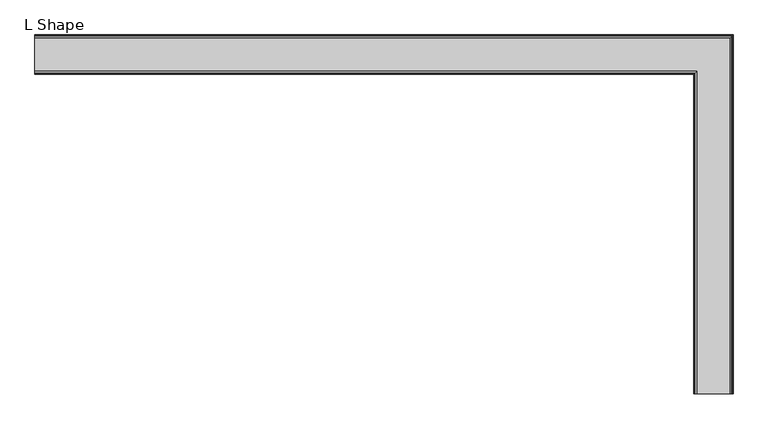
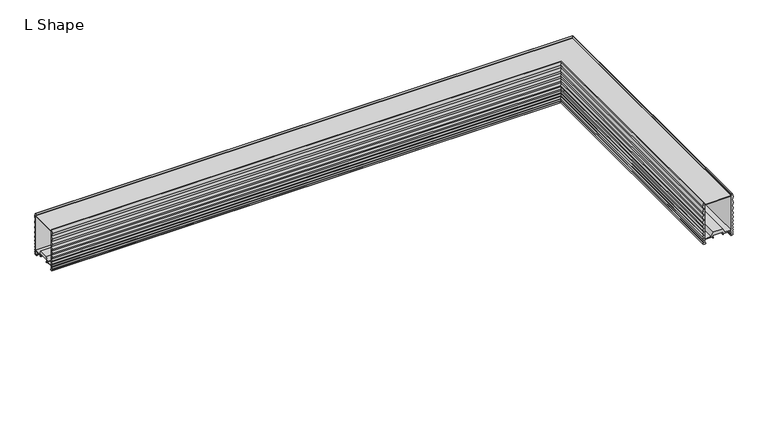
"""IFC4 building model written with IfcOpenShell, lengths in millimetres: light fixture geometry, Lighting-Ceiling-Betacalco-Bellows-L_Shape : L Shape."""

from ifc_helpers import new_model, si_unit, frame, origin, place, context, project, spatial, polyline, circle_curve, ellipse_curve, outline, extrude, source, transform, mapped, element, save
from ifc_brep_helpers import plane_surface, cylinder_surface, advanced_brep


def l_shape_3eba71ef(model_context):
    return source(origin(), model_context, "Body", "SolidModel", [
        advanced_brep(
        [(578.378, -609.6, 10.668), (596.0870711, -609.6, 10.668), (596.8570321, -609.6, 8.614822), (598.5447356, -609.6, 9.2406239), (596.91399, -609.6, 13.5891701), (597.5358437, -609.6, 14.8333325), (621.6641563, -609.6, 14.8333325), (622.28601, -609.6, 13.5891701), (620.6552644, -609.6, 9.2406239), (622.3429679, -609.6, 8.614822), (623.1129289, -609.6, 10.668), (640.822, -609.6, 10.668), (640.822, -609.6, 2.159), (638.2925845, -609.6, 2.159), (640.2378, -609.6, 0.0), (642.8887943, -609.6, 0.0), (644.7621621, -609.6, 2.0283861), (642.981, -609.6, 4.064), (644.759, -609.6, 6.604), (642.981, -609.6, 9.144), (644.759, -609.6, 12.192), (642.981, -609.6, 15.24), (644.759, -609.6, 18.796), (642.981, -609.6, 22.352), (644.759, -609.6, 26.162), (642.981, -609.6, 29.972), (644.7303587, -609.6, 34.4703509), (643.0082002, -609.6, 39.0460566), (644.7355055, -609.6, 44.1288728), (643.0034215, -609.6, 49.2119386), (644.7393965, -609.6, 54.802389), (642.9997837, -609.6, 60.3929656), (644.7424053, -609.6, 66.491104), (642.9964031, -609.6, 72.5911894), (644.7466792, -609.6, 79.7067168), (642.9931082, -609.6, 86.8195673), (644.7474913, -609.6, 94.186321), (642.9814932, -609.6, 101.6), (642.1877432, -609.6, 101.6), (640.02825, -609.6, 99.2470342), (640.02825, -609.6, 97.7961196), (640.822, -609.6, 97.7961196), (640.822, -609.6, 12.827), (625.0806146, -609.6, 12.827), (620.2222255, -609.6, 22.5473325), (598.9777745, -609.6, 22.5473325), (594.1193854, -609.6, 12.827), (578.378, -609.6, 12.827), (578.378, -609.6, 97.7961196), (579.17175, -609.6, 97.7961196), (579.17175, -609.6, 99.2470342), (577.0122568, -609.6, 101.6), (576.2185068, -609.6, 101.6), (574.4525087, -609.6, 94.186321), (576.2068918, -609.6, 86.8195673), (574.4533208, -609.6, 79.7067168), (576.2035969, -609.6, 72.5911894), (574.4575947, -609.6, 66.491104), (576.2002163, -609.6, 60.3929656), (574.4606035, -609.6, 54.802389), (576.1965785, -609.6, 49.2119386), (574.4644945, -609.6, 44.1288728), (576.1917998, -609.6, 39.0460566), (574.4696413, -609.6, 34.4703509), (576.219, -609.6, 29.972), (574.441, -609.6, 26.162), (576.219, -609.6, 22.352), (574.441, -609.6, 18.796), (576.219, -609.6, 15.24), (574.441, -609.6, 12.192), (576.219, -609.6, 9.144), (574.441, -609.6, 6.604), (576.219, -609.6, 4.064), (574.4378379, -609.6, 2.0283861), (576.3112057, -609.6, 0.0), (578.9622, -609.6, 0.0), (580.9074155, -609.6, 2.159), (578.378, -609.6, 2.159), (-609.6, -31.222, 10.668), (-609.6, -31.222, 2.159), (-609.6, -28.6925845, 2.159), (-609.6, -30.6378, 0.0), (-609.6, -33.2887943, 0.0), (-609.6, -35.1621621, 2.0283861), (-609.6, -33.381, 4.064), (-609.6, -35.159, 6.604), (-609.6, -33.381, 9.144), (-609.6, -35.159, 12.192), (-609.6, -33.381, 15.24), (-609.6, -35.159, 18.796), (-609.6, -33.381, 22.352), (-609.6, -35.159, 26.162), (-609.6, -33.381, 29.972), (-609.6, -35.1303587, 34.4703509), (-609.6, -33.4082002, 39.0460566), (-609.6, -35.1355055, 44.1288728), (-609.6, -33.4034215, 49.2119386), (-609.6, -35.1393965, 54.802389), (-609.6, -33.3997837, 60.3929656), (-609.6, -35.1424053, 66.491104), (-609.6, -33.3964031, 72.5911894), (-609.6, -35.1466792, 79.7067168), (-609.6, -33.3931082, 86.8195673), (-609.6, -35.1474913, 94.186321), (-609.6, -33.3814932, 101.6), (-609.6, -32.5877432, 101.6), (-609.6, -30.42825, 99.2470342), (-609.6, -30.42825, 97.7961196), (-609.6, -31.222, 97.7961196), (-609.6, -31.222, 12.827), (-609.6, -15.4806146, 12.827), (-609.6, -10.6222255, 22.5473325), (-609.6, 10.6222255, 22.5473325), (-609.6, 15.4806146, 12.827), (-609.6, 31.222, 12.827), (-609.6, 31.222, 97.7961196), (-609.6, 30.42825, 97.7961196), (-609.6, 30.42825, 99.2470342), (-609.6, 32.5877432, 101.6), (-609.6, 33.3814932, 101.6), (-609.6, 35.1474913, 94.186321), (-609.6, 33.3931082, 86.8195673), (-609.6, 35.1466792, 79.7067168), (-609.6, 33.3964031, 72.5911894), (-609.6, 35.1424053, 66.491104), (-609.6, 33.3997837, 60.3929656), (-609.6, 35.1393965, 54.802389), (-609.6, 33.4034215, 49.2119386), (-609.6, 35.1355055, 44.1288728), (-609.6, 33.4082002, 39.0460566), (-609.6, 35.1303587, 34.4703509), (-609.6, 33.381, 29.972), (-609.6, 35.159, 26.162), (-609.6, 33.381, 22.352), (-609.6, 35.159, 18.796), (-609.6, 33.381, 15.24), (-609.6, 35.159, 12.192), (-609.6, 33.381, 9.144), (-609.6, 35.159, 6.604), (-609.6, 33.381, 4.064), (-609.6, 35.1621621, 2.0283861), (-609.6, 33.2887943, 0.0), (-609.6, 30.6378, 0.0), (-609.6, 28.6925845, 2.159), (-609.6, 31.222, 2.159), (-609.6, 31.222, 10.668), (-609.6, 13.5129289, 10.668), (-609.6, 12.7429679, 8.614822), (-609.6, 11.0552644, 9.2406239), (-609.6, 12.68601, 13.5891701), (-609.6, 12.0641563, 14.8333325), (-609.6, -12.0641563, 14.8333325), (-609.6, -12.68601, 13.5891701), (-609.6, -11.0552644, 9.2406239), (-609.6, -12.7429679, 8.614822), (-609.6, -13.5129289, 10.668), (596.8570321, -12.7429679, 8.614822), (596.0870711, -13.5129289, 10.668), (598.5447356, -11.0552644, 9.2406239), (596.91399, -12.68601, 13.5891701), (597.5358437, -12.0641563, 14.8333325), (622.28601, 12.68601, 13.5891701), (621.6641563, 12.0641563, 14.8333325), (620.6552644, 11.0552644, 9.2406239), (622.3429679, 12.7429679, 8.614822), (623.1129289, 13.5129289, 10.668), (640.822, 31.222, 2.159), (640.822, 31.222, 10.668), (640.2378, 30.6378, 0.0), (638.2925845, 28.6925845, 2.159), (644.7621621, 35.1621621, 2.0283861), (642.8887943, 33.2887943, 0.0), (642.981, 33.381, 4.064), (644.759, 35.159, 6.604), (642.981, 33.381, 9.144), (644.759, 35.159, 12.192), (642.981, 33.381, 15.24), (644.759, 35.159, 18.796), (642.981, 33.381, 22.352), (644.759, 35.159, 26.162), (642.981, 33.381, 29.972), (644.7303587, 35.1303587, 34.4703509), (643.0082002, 33.4082002, 39.0460566), (644.7355055, 35.1355055, 44.1288728), (643.0034215, 33.4034215, 49.2119386), (644.7393965, 35.1393965, 54.802389), (642.9997837, 33.3997837, 60.3929656), (644.7424053, 35.1424053, 66.491104), (642.9964031, 33.3964031, 72.5911894), (644.7466792, 35.1466792, 79.7067168), (642.9931082, 33.3931082, 86.8195673), (644.7474913, 35.1474913, 94.186321), (642.9814932, 33.3814932, 101.6), (640.02825, 30.42825, 99.2470342), (642.1877432, 32.5877432, 101.6), (640.02825, 30.42825, 97.7961196), (640.822, 31.222, 12.827), (640.822, 31.222, 97.7961196), (620.2222255, 10.6222255, 22.5473325), (625.0806146, 15.4806146, 12.827), (594.1193854, -15.4806146, 12.827), (598.9777745, -10.6222255, 22.5473325), (578.378, -31.222, 97.7961196), (578.378, -31.222, 12.827), (579.17175, -30.42825, 99.2470342), (579.17175, -30.42825, 97.7961196), (577.0122568, -32.5877432, 101.6), (574.4525087, -35.1474913, 94.186321), (576.2185068, -33.3814932, 101.6), (576.2068918, -33.3931082, 86.8195673), (574.4533208, -35.1466792, 79.7067168), (576.2035969, -33.3964031, 72.5911894), (574.4575947, -35.1424053, 66.491104), (576.2002163, -33.3997837, 60.3929656), (574.4606035, -35.1393965, 54.802389), (576.1965785, -33.4034215, 49.2119386), (574.4644945, -35.1355055, 44.1288728), (576.1917998, -33.4082002, 39.0460566), (574.4696413, -35.1303587, 34.4703509), (576.219, -33.381, 29.972), (574.441, -35.159, 26.162), (576.219, -33.381, 22.352), (574.441, -35.159, 18.796), (576.219, -33.381, 15.24), (574.441, -35.159, 12.192), (576.219, -33.381, 9.144), (574.441, -35.159, 6.604), (576.219, -33.381, 4.064), (574.4378379, -35.1621621, 2.0283861), (576.3112057, -33.2887943, 0.0), (580.9074155, -28.6925845, 2.159), (578.9622, -30.6378, 0.0), (578.378, -31.222, 10.668), (578.378, -31.222, 2.159)],
        [
            (0, 1),
            (1, 2),
            (2, 3, circle_curve(frame((597.6997277, -609.6, 8.9308408), z_axis=(0.0, -1.0, 0.0), x_axis=(0.34325550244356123, 0.0, -0.9392420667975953)), 0.9000021)),
            (3, 4),
            (4, 5),
            (5, 6),
            (6, 7),
            (7, 8),
            (8, 9, circle_curve(frame((621.5002723, -609.6, 8.9308408), z_axis=(0.0, -1.0, 0.0), x_axis=(-0.34325550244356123, 0.0, -0.9392420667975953)), 0.9000021)),
            (9, 10),
            (10, 11),
            (11, 12),
            (12, 13),
            (13, 14, circle_curve(frame((640.2378, -609.6, 1.9558), z_axis=(0.0, -1.0, 0.0), x_axis=(0.0, 0.0, -1.0)), 1.9558)),
            (14, 15),
            (15, 16),
            (16, 17),
            (17, 18),
            (18, 19),
            (19, 20),
            (20, 21),
            (21, 22),
            (22, 23),
            (23, 24),
            (24, 25),
            (25, 26),
            (26, 27),
            (27, 28),
            (28, 29),
            (29, 30),
            (30, 31),
            (31, 32),
            (32, 33),
            (33, 34),
            (34, 35),
            (35, 36),
            (36, 37),
            (37, 38),
            (38, 39),
            (39, 40),
            (40, 41),
            (41, 42),
            (42, 43),
            (43, 44),
            (44, 45),
            (45, 46),
            (46, 47),
            (47, 48),
            (48, 49),
            (49, 50),
            (50, 51),
            (51, 52),
            (52, 53),
            (53, 54),
            (54, 55),
            (55, 56),
            (56, 57),
            (57, 58),
            (58, 59),
            (59, 60),
            (60, 61),
            (61, 62),
            (62, 63),
            (63, 64),
            (64, 65),
            (65, 66),
            (66, 67),
            (67, 68),
            (68, 69),
            (69, 70),
            (70, 71),
            (71, 72),
            (72, 73),
            (73, 74),
            (74, 75),
            (75, 76, circle_curve(frame((578.9622, -609.6, 1.9558), z_axis=(0.0, -1.0, 0.0), x_axis=(0.0, 0.0, -1.0)), 1.9558)),
            (76, 77),
            (77, 0),
            (78, 79),
            (79, 80),
            (80, 81, circle_curve(frame((-609.6, -30.6378, 1.9558), z_axis=(-1.0, 0.0, 0.0), x_axis=(0.0, 0.0, -1.0)), 1.9558)),
            (81, 82),
            (82, 83),
            (83, 84),
            (84, 85),
            (85, 86),
            (86, 87),
            (87, 88),
            (88, 89),
            (89, 90),
            (90, 91),
            (91, 92),
            (92, 93),
            (93, 94),
            (94, 95),
            (95, 96),
            (96, 97),
            (97, 98),
            (98, 99),
            (99, 100),
            (100, 101),
            (101, 102),
            (102, 103),
            (103, 104),
            (104, 105),
            (105, 106),
            (106, 107),
            (107, 108),
            (108, 109),
            (109, 110),
            (110, 111),
            (111, 112),
            (112, 113),
            (113, 114),
            (114, 115),
            (115, 116),
            (116, 117),
            (117, 118),
            (118, 119),
            (119, 120),
            (120, 121),
            (121, 122),
            (122, 123),
            (123, 124),
            (124, 125),
            (125, 126),
            (126, 127),
            (127, 128),
            (128, 129),
            (129, 130),
            (130, 131),
            (131, 132),
            (132, 133),
            (133, 134),
            (134, 135),
            (135, 136),
            (136, 137),
            (137, 138),
            (138, 139),
            (139, 140),
            (140, 141),
            (141, 142),
            (142, 143, circle_curve(frame((-609.6, 30.6378, 1.9558), z_axis=(-1.0, 0.0, 0.0), x_axis=(0.0, 0.0, -1.0)), 1.9558)),
            (143, 144),
            (144, 145),
            (145, 146),
            (146, 147),
            (147, 148, circle_curve(frame((-609.6, 11.9002723, 8.9308408), z_axis=(-1.0, 0.0, 0.0), x_axis=(0.0, -0.34325550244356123, -0.9392420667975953)), 0.9000021)),
            (148, 149),
            (149, 150),
            (150, 151),
            (151, 152),
            (152, 153),
            (153, 154, circle_curve(frame((-609.6, -11.9002723, 8.9308408), z_axis=(-1.0, 0.0, 0.0), x_axis=(0.0, 0.34325550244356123, -0.9392420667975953)), 0.9000021)),
            (154, 155),
            (155, 78),
            (156, 157),
            (157, 155),
            (154, 156),
            (158, 156, ellipse_curve(frame((597.6997277, -11.9002723, 8.9308408), z_axis=(-0.7071067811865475, 0.7071067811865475, 0.0), x_axis=(0.7071067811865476, 0.7071067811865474, 0.0)), 1.2727952, 0.9000021)),
            (153, 158),
            (159, 158),
            (152, 159),
            (160, 159),
            (151, 160),
            (161, 162),
            (162, 150),
            (149, 161),
            (163, 161),
            (148, 163),
            (164, 163, ellipse_curve(frame((621.5002723, 11.9002723, 8.9308408), z_axis=(-0.7071067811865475, 0.7071067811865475, 0.0), x_axis=(0.7071067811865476, 0.7071067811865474, 0.0)), 1.2727952, 0.9000021)),
            (147, 164),
            (165, 164),
            (146, 165),
            (166, 167),
            (167, 145),
            (144, 166),
            (168, 169, ellipse_curve(frame((640.2378, 30.6378, 1.9558), z_axis=(-0.7071067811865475, 0.7071067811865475, 0.0), x_axis=(0.7071067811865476, 0.7071067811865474, 0.0)), 2.7659189, 1.9558)),
            (169, 143),
            (142, 168),
            (170, 171),
            (171, 141),
            (140, 170),
            (172, 170),
            (139, 172),
            (173, 172),
            (138, 173),
            (174, 173),
            (137, 174),
            (175, 174),
            (136, 175),
            (176, 175),
            (135, 176),
            (177, 176),
            (134, 177),
            (178, 177),
            (133, 178),
            (179, 178),
            (132, 179),
            (180, 179),
            (131, 180),
            (181, 180),
            (130, 181),
            (182, 181),
            (129, 182),
            (183, 182),
            (128, 183),
            (184, 183),
            (127, 184),
            (185, 184),
            (126, 185),
            (186, 185),
            (125, 186),
            (187, 186),
            (124, 187),
            (188, 187),
            (123, 188),
            (189, 188),
            (122, 189),
            (190, 189),
            (121, 190),
            (191, 190),
            (120, 191),
            (192, 191),
            (119, 192),
            (193, 194),
            (194, 118),
            (117, 193),
            (195, 193),
            (116, 195),
            (196, 197),
            (197, 115),
            (114, 196),
            (198, 199),
            (199, 113),
            (112, 198),
            (200, 201),
            (201, 111),
            (110, 200),
            (202, 203),
            (203, 109),
            (108, 202),
            (204, 205),
            (205, 107),
            (106, 204),
            (206, 204),
            (105, 206),
            (207, 208),
            (208, 104),
            (103, 207),
            (209, 207),
            (102, 209),
            (210, 209),
            (101, 210),
            (211, 210),
            (100, 211),
            (212, 211),
            (99, 212),
            (213, 212),
            (98, 213),
            (214, 213),
            (97, 214),
            (215, 214),
            (96, 215),
            (216, 215),
            (95, 216),
            (217, 216),
            (94, 217),
            (218, 217),
            (93, 218),
            (219, 218),
            (92, 219),
            (220, 219),
            (91, 220),
            (221, 220),
            (90, 221),
            (222, 221),
            (89, 222),
            (223, 222),
            (88, 223),
            (224, 223),
            (87, 224),
            (225, 224),
            (86, 225),
            (226, 225),
            (85, 226),
            (227, 226),
            (84, 227),
            (228, 227),
            (83, 228),
            (229, 228),
            (82, 229),
            (230, 231, ellipse_curve(frame((578.9622, -30.6378, 1.9558), z_axis=(-0.7071067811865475, 0.7071067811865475, 0.0), x_axis=(0.7071067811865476, 0.7071067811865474, 0.0)), 2.7659189, 1.9558)),
            (231, 81),
            (80, 230),
            (232, 233),
            (233, 79),
            (78, 232),
            (0, 232),
            (157, 1),
            (156, 2),
            (158, 3),
            (159, 4),
            (160, 5),
            (162, 6),
            (161, 7),
            (163, 8),
            (164, 9),
            (165, 10),
            (167, 11),
            (166, 12),
            (169, 13),
            (168, 14),
            (171, 15),
            (170, 16),
            (172, 17),
            (173, 18),
            (174, 19),
            (175, 20),
            (176, 21),
            (177, 22),
            (178, 23),
            (179, 24),
            (180, 25),
            (181, 26),
            (182, 27),
            (183, 28),
            (184, 29),
            (185, 30),
            (186, 31),
            (187, 32),
            (188, 33),
            (189, 34),
            (190, 35),
            (191, 36),
            (192, 37),
            (194, 38),
            (193, 39),
            (195, 40),
            (197, 41),
            (196, 42),
            (199, 43),
            (198, 44),
            (201, 45),
            (200, 46),
            (203, 47),
            (202, 48),
            (205, 49),
            (204, 50),
            (206, 51),
            (208, 52),
            (207, 53),
            (209, 54),
            (210, 55),
            (211, 56),
            (212, 57),
            (213, 58),
            (214, 59),
            (215, 60),
            (216, 61),
            (217, 62),
            (218, 63),
            (219, 64),
            (220, 65),
            (221, 66),
            (222, 67),
            (223, 68),
            (224, 69),
            (225, 70),
            (226, 71),
            (227, 72),
            (228, 73),
            (229, 74),
            (231, 75),
            (230, 76),
            (233, 77),
        ],
        [
            plane_surface(frame((609.6, -609.6, 0.0), z_axis=(0.0, -1.0, 0.0), x_axis=(0.0, 0.0, 1.0))),
            plane_surface(frame((-609.6, 0.0, 0.0), z_axis=(-1.0, 0.0, 0.0), x_axis=(0.0, 0.0, 1.0))),
            plane_surface(frame((596.0870711, -13.5129289, 10.668), z_axis=(0.0, -0.9363262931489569, -0.3511311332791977), x_axis=(-1.0, 0.0, 0.0))),
            cylinder_surface(frame((609.6, -11.9002723, 8.9308408), z_axis=(1.0, 0.0, 0.0), x_axis=(0.0, 0.34325550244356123, -0.9392420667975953)), 0.9000021),
            plane_surface(frame((598.5447356, -11.0552644, 9.2406239), z_axis=(0.0, 0.9363262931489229, 0.35113113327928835), x_axis=(-1.0, 0.0, 0.0))),
            plane_surface(frame((596.91399, -12.68601, 13.5891701), z_axis=(0.0, 0.89449260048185, -0.44708275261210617), x_axis=(-1.0, 0.0, 0.0))),
            plane_surface(frame((621.6641563, 12.0641563, 14.8333325), z_axis=(0.0, -0.89449260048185, -0.44708275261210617), x_axis=(-1.0, 0.0, 0.0))),
            plane_surface(frame((622.28601, 12.68601, 13.5891701), z_axis=(0.0, -0.9363262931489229, 0.35113113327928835), x_axis=(-1.0, 0.0, 0.0))),
            cylinder_surface(frame((609.6, 11.9002723, 8.9308408), z_axis=(1.0, 0.0, 0.0), x_axis=(0.0, -0.34325550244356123, -0.9392420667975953)), 0.9000021),
            plane_surface(frame((622.3429679, 12.7429679, 8.614822), z_axis=(0.0, 0.9363262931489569, -0.3511311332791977), x_axis=(-1.0, 0.0, 0.0))),
            plane_surface(frame((640.822, 31.222, 10.668), z_axis=(0.0, -1.0, 0.0), x_axis=(-1.0, 0.0, 0.0))),
            cylinder_surface(frame((609.6, 30.6378, 1.9558), z_axis=(1.0, 0.0, 0.0), x_axis=(0.0, 0.0, -1.0)), 1.9558),
            plane_surface(frame((642.8887943, 33.2887943, 0.0), z_axis=(0.0, 0.7346208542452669, -0.6784778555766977), x_axis=(-1.0, 0.0, 0.0))),
            plane_surface(frame((644.7621621, 35.1621621, 2.0283861), z_axis=(0.0, 0.75257669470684, 0.6585046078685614), x_axis=(-1.0, 0.0, 0.0))),
            plane_surface(frame((642.981, 33.381, 4.064), z_axis=(0.0, 0.8192319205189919, -0.5734623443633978), x_axis=(-1.0, 0.0, 0.0))),
            plane_surface(frame((644.759, 35.159, 6.604), z_axis=(0.0, 0.8192319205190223, 0.5734623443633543), x_axis=(-1.0, 0.0, 0.0))),
            plane_surface(frame((642.981, 33.381, 9.144), z_axis=(0.0, 0.8637789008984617, -0.503871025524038), x_axis=(-1.0, 0.0, 0.0))),
            plane_surface(frame((644.759, 35.159, 12.192), z_axis=(0.0, 0.8637789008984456, 0.5038710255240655), x_axis=(-1.0, 0.0, 0.0))),
            plane_surface(frame((642.981, 33.381, 15.24), z_axis=(0.0, 0.8944271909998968, -0.4472135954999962), x_axis=(-1.0, 0.0, 0.0))),
            plane_surface(frame((644.759, 35.159, 18.796), z_axis=(0.0, 0.8944271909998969, 0.44721359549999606), x_axis=(-1.0, 0.0, 0.0))),
            plane_surface(frame((642.981, 33.381, 22.352), z_axis=(0.0, 0.9061831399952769, -0.4228854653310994), x_axis=(-1.0, 0.0, 0.0))),
            plane_surface(frame((644.759, 35.159, 26.162), z_axis=(0.0, 0.9061831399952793, 0.4228854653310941), x_axis=(-1.0, 0.0, 0.0))),
            plane_surface(frame((642.981, 33.381, 29.972), z_axis=(0.0, 0.9320046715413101, -0.362446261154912), x_axis=(-1.0, 0.0, 0.0))),
            plane_surface(frame((644.7303587, 35.1303587, 34.4703509), z_axis=(0.0, 0.9359069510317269, 0.35224732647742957), x_axis=(-1.0, 0.0, 0.0))),
            plane_surface(frame((643.0082002, 33.4082002, 39.0460566), z_axis=(0.0, 0.9468211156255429, -0.3217604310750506), x_axis=(-1.0, 0.0, 0.0))),
            plane_surface(frame((644.7355055, 35.1355055, 44.1288728), z_axis=(0.0, 0.9465545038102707, 0.3225439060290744), x_axis=(-1.0, 0.0, 0.0))),
            plane_surface(frame((643.0034215, 33.4034215, 49.2119386), z_axis=(0.0, 0.9550153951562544, -0.2965562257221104), x_axis=(-1.0, 0.0, 0.0))),
            plane_surface(frame((644.7393965, 35.1393965, 54.802389), z_axis=(0.0, 0.9548411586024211, 0.29711674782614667), x_axis=(-1.0, 0.0, 0.0))),
            plane_surface(frame((642.9997837, 33.3997837, 60.3929656), z_axis=(0.0, 0.9615116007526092, -0.2747643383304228), x_axis=(-1.0, 0.0, 0.0))),
            plane_surface(frame((644.7424053, 35.1424053, 66.491104), z_axis=(0.0, 0.9613939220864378, 0.27517581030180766), x_axis=(-1.0, 0.0, 0.0))),
            plane_surface(frame((642.9964031, 33.3964031, 72.5911894), z_axis=(0.0, 0.971054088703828, -0.23885970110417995), x_axis=(-1.0, 0.0, 0.0))),
            plane_surface(frame((644.7466792, 35.1466792, 79.7067168), z_axis=(0.0, 0.9709287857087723, 0.23936852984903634), x_axis=(-1.0, 0.0, 0.0))),
            plane_surface(frame((642.9931082, 33.3931082, 86.8195673), z_axis=(0.0, 0.9727944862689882, -0.23166978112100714), x_axis=(-1.0, 0.0, 0.0))),
            plane_surface(frame((644.7474913, 35.1474913, 94.186321), z_axis=(0.0, 0.9727814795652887, 0.23172439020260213), x_axis=(-1.0, 0.0, 0.0))),
            plane_surface(frame((642.1877432, 32.5877432, 101.6), z_axis=(0.0, -0.7367472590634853, 0.6761682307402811), x_axis=(-1.0, 0.0, 0.0))),
            plane_surface(frame((640.02825, 30.42825, 99.2470342), z_axis=(0.0, -1.0, 0.0), x_axis=(-1.0, 0.0, 0.0))),
            plane_surface(frame((640.822, 31.222, 97.7961196), z_axis=(0.0, -1.0, 0.0), x_axis=(-1.0, 0.0, 0.0))),
            plane_surface(frame((625.0806146, 15.4806146, 12.827), z_axis=(0.0, 0.8944926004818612, 0.4470827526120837), x_axis=(-1.0, 0.0, 0.0))),
            plane_surface(frame((598.9777745, -10.6222255, 22.5473325), z_axis=(0.0, -0.8944926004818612, 0.4470827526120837), x_axis=(-1.0, 0.0, 0.0))),
            plane_surface(frame((578.378, -31.222, 12.827), z_axis=(0.0, 1.0, 0.0), x_axis=(-1.0, 0.0, 0.0))),
            plane_surface(frame((579.17175, -30.42825, 97.7961196), z_axis=(0.0, 1.0, 0.0), x_axis=(-1.0, 0.0, 0.0))),
            plane_surface(frame((579.17175, -30.42825, 99.2470342), z_axis=(0.0, 0.7367472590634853, 0.6761682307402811), x_axis=(-1.0, 0.0, 0.0))),
            plane_surface(frame((576.2185068, -33.3814932, 101.6), z_axis=(0.0, -0.9727814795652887, 0.23172439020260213), x_axis=(-1.0, 0.0, 0.0))),
            plane_surface(frame((574.4525087, -35.1474913, 94.186321), z_axis=(0.0, -0.9727944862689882, -0.23166978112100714), x_axis=(-1.0, 0.0, 0.0))),
            plane_surface(frame((576.2068918, -33.3931082, 86.8195673), z_axis=(0.0, -0.9709287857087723, 0.23936852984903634), x_axis=(-1.0, 0.0, 0.0))),
            plane_surface(frame((574.4533208, -35.1466792, 79.7067168), z_axis=(0.0, -0.971054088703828, -0.23885970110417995), x_axis=(-1.0, 0.0, 0.0))),
            plane_surface(frame((576.2035969, -33.3964031, 72.5911894), z_axis=(0.0, -0.9613939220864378, 0.27517581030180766), x_axis=(-1.0, 0.0, 0.0))),
            plane_surface(frame((574.4575947, -35.1424053, 66.491104), z_axis=(0.0, -0.9615116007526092, -0.2747643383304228), x_axis=(-1.0, 0.0, 0.0))),
            plane_surface(frame((576.2002163, -33.3997837, 60.3929656), z_axis=(0.0, -0.9548411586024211, 0.29711674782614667), x_axis=(-1.0, 0.0, 0.0))),
            plane_surface(frame((574.4606035, -35.1393965, 54.802389), z_axis=(0.0, -0.9550153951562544, -0.2965562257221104), x_axis=(-1.0, 0.0, 0.0))),
            plane_surface(frame((576.1965785, -33.4034215, 49.2119386), z_axis=(0.0, -0.9465545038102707, 0.3225439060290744), x_axis=(-1.0, 0.0, 0.0))),
            plane_surface(frame((574.4644945, -35.1355055, 44.1288728), z_axis=(0.0, -0.9468211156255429, -0.3217604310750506), x_axis=(-1.0, 0.0, 0.0))),
            plane_surface(frame((576.1917998, -33.4082002, 39.0460566), z_axis=(0.0, -0.9359069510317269, 0.35224732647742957), x_axis=(-1.0, 0.0, 0.0))),
            plane_surface(frame((574.4696413, -35.1303587, 34.4703509), z_axis=(0.0, -0.9320046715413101, -0.362446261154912), x_axis=(-1.0, 0.0, 0.0))),
            plane_surface(frame((576.219, -33.381, 29.972), z_axis=(0.0, -0.9061831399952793, 0.4228854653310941), x_axis=(-1.0, 0.0, 0.0))),
            plane_surface(frame((574.441, -35.159, 26.162), z_axis=(0.0, -0.9061831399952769, -0.4228854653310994), x_axis=(-1.0, 0.0, 0.0))),
            plane_surface(frame((576.219, -33.381, 22.352), z_axis=(0.0, -0.8944271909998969, 0.44721359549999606), x_axis=(-1.0, 0.0, 0.0))),
            plane_surface(frame((574.441, -35.159, 18.796), z_axis=(0.0, -0.8944271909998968, -0.4472135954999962), x_axis=(-1.0, 0.0, 0.0))),
            plane_surface(frame((576.219, -33.381, 15.24), z_axis=(0.0, -0.8637789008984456, 0.5038710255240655), x_axis=(-1.0, 0.0, 0.0))),
            plane_surface(frame((574.441, -35.159, 12.192), z_axis=(0.0, -0.8637789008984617, -0.503871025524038), x_axis=(-1.0, 0.0, 0.0))),
            plane_surface(frame((576.219, -33.381, 9.144), z_axis=(0.0, -0.8192319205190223, 0.5734623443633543), x_axis=(-1.0, 0.0, 0.0))),
            plane_surface(frame((574.441, -35.159, 6.604), z_axis=(0.0, -0.8192319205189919, -0.5734623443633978), x_axis=(-1.0, 0.0, 0.0))),
            plane_surface(frame((576.219, -33.381, 4.064), z_axis=(0.0, -0.75257669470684, 0.6585046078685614), x_axis=(-1.0, 0.0, 0.0))),
            plane_surface(frame((574.4378379, -35.1621621, 2.0283861), z_axis=(0.0, -0.7346208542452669, -0.6784778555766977), x_axis=(-1.0, 0.0, 0.0))),
            cylinder_surface(frame((609.6, -30.6378, 1.9558), z_axis=(1.0, 0.0, 0.0), x_axis=(0.0, 0.0, -1.0)), 1.9558),
            plane_surface(frame((578.378, -31.222, 2.159), z_axis=(0.0, 1.0, 0.0), x_axis=(-1.0, 0.0, 0.0))),
            plane_surface(frame((578.378, -609.6, 10.668), z_axis=(0.0, 0.0, -1.0), x_axis=(0.0, 1.0, 0.0))),
            plane_surface(frame((596.0870711, -609.6, 10.668), z_axis=(-0.9363262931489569, 0.0, -0.3511311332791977), x_axis=(0.0, 1.0, 0.0))),
            cylinder_surface(frame((597.6997277, -609.6, 8.9308408), z_axis=(0.0, -1.0, 0.0), x_axis=(0.34325550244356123, 0.0, -0.9392420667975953)), 0.9000021),
            plane_surface(frame((598.5447356, -609.6, 9.2406239), z_axis=(0.9363262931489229, 0.0, 0.35113113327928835), x_axis=(0.0, 1.0, 0.0))),
            plane_surface(frame((596.91399, -609.6, 13.5891701), z_axis=(0.89449260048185, 0.0, -0.44708275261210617), x_axis=(0.0, 1.0, 0.0))),
            plane_surface(frame((597.5358437, -609.6, 14.8333325), z_axis=(0.0, 0.0, -1.0), x_axis=(0.0, 1.0, 0.0))),
            plane_surface(frame((621.6641563, -609.6, 14.8333325), z_axis=(-0.89449260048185, 0.0, -0.44708275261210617), x_axis=(0.0, 1.0, 0.0))),
            plane_surface(frame((622.28601, -609.6, 13.5891701), z_axis=(-0.9363262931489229, 0.0, 0.35113113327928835), x_axis=(0.0, 1.0, 0.0))),
            cylinder_surface(frame((621.5002723, -609.6, 8.9308408), z_axis=(0.0, -1.0, 0.0), x_axis=(-0.34325550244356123, 0.0, -0.9392420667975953)), 0.9000021),
            plane_surface(frame((622.3429679, -609.6, 8.614822), z_axis=(0.9363262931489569, 0.0, -0.3511311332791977), x_axis=(0.0, 1.0, 0.0))),
            plane_surface(frame((623.1129289, -609.6, 10.668), z_axis=(0.0, 0.0, -1.0), x_axis=(0.0, 1.0, 0.0))),
            plane_surface(frame((640.822, -609.6, 10.668), z_axis=(-1.0, 0.0, 0.0), x_axis=(0.0, 1.0, 0.0))),
            plane_surface(frame((640.822, -609.6, 2.159), z_axis=(0.0, 0.0, 1.0), x_axis=(0.0, 1.0, 0.0))),
            cylinder_surface(frame((640.2378, -609.6, 1.9558), z_axis=(0.0, -1.0, 0.0), x_axis=(0.0, 0.0, -1.0)), 1.9558),
            plane_surface(frame((640.2378, -609.6, 0.0), z_axis=(0.0, 0.0, -1.0), x_axis=(0.0, 1.0, 0.0))),
            plane_surface(frame((642.8887943, -609.6, 0.0), z_axis=(0.7346208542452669, 0.0, -0.6784778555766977), x_axis=(0.0, 1.0, 0.0))),
            plane_surface(frame((644.7621621, -609.6, 2.0283861), z_axis=(0.75257669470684, 0.0, 0.6585046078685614), x_axis=(0.0, 1.0, 0.0))),
            plane_surface(frame((642.981, -609.6, 4.064), z_axis=(0.8192319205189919, 0.0, -0.5734623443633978), x_axis=(0.0, 1.0, 0.0))),
            plane_surface(frame((644.759, -609.6, 6.604), z_axis=(0.8192319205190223, 0.0, 0.5734623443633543), x_axis=(0.0, 1.0, 0.0))),
            plane_surface(frame((642.981, -609.6, 9.144), z_axis=(0.8637789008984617, 0.0, -0.503871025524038), x_axis=(0.0, 1.0, 0.0))),
            plane_surface(frame((644.759, -609.6, 12.192), z_axis=(0.8637789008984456, 0.0, 0.5038710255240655), x_axis=(0.0, 1.0, 0.0))),
            plane_surface(frame((642.981, -609.6, 15.24), z_axis=(0.8944271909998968, 0.0, -0.4472135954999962), x_axis=(0.0, 1.0, 0.0))),
            plane_surface(frame((644.759, -609.6, 18.796), z_axis=(0.8944271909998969, 0.0, 0.44721359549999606), x_axis=(0.0, 1.0, 0.0))),
            plane_surface(frame((642.981, -609.6, 22.352), z_axis=(0.9061831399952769, 0.0, -0.4228854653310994), x_axis=(0.0, 1.0, 0.0))),
            plane_surface(frame((644.759, -609.6, 26.162), z_axis=(0.9061831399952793, 0.0, 0.4228854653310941), x_axis=(0.0, 1.0, 0.0))),
            plane_surface(frame((642.981, -609.6, 29.972), z_axis=(0.9320046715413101, 0.0, -0.362446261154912), x_axis=(0.0, 1.0, 0.0))),
            plane_surface(frame((644.7303587, -609.6, 34.4703509), z_axis=(0.9359069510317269, 0.0, 0.35224732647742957), x_axis=(0.0, 1.0, 0.0))),
            plane_surface(frame((643.0082002, -609.6, 39.0460566), z_axis=(0.9468211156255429, 0.0, -0.3217604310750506), x_axis=(0.0, 1.0, 0.0))),
            plane_surface(frame((644.7355055, -609.6, 44.1288728), z_axis=(0.9465545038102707, 0.0, 0.3225439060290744), x_axis=(0.0, 1.0, 0.0))),
            plane_surface(frame((643.0034215, -609.6, 49.2119386), z_axis=(0.9550153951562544, 0.0, -0.2965562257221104), x_axis=(0.0, 1.0, 0.0))),
            plane_surface(frame((644.7393965, -609.6, 54.802389), z_axis=(0.9548411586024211, 0.0, 0.29711674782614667), x_axis=(0.0, 1.0, 0.0))),
            plane_surface(frame((642.9997837, -609.6, 60.3929656), z_axis=(0.9615116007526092, 0.0, -0.2747643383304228), x_axis=(0.0, 1.0, 0.0))),
            plane_surface(frame((644.7424053, -609.6, 66.491104), z_axis=(0.9613939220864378, 0.0, 0.27517581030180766), x_axis=(0.0, 1.0, 0.0))),
            plane_surface(frame((642.9964031, -609.6, 72.5911894), z_axis=(0.971054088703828, 0.0, -0.23885970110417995), x_axis=(0.0, 1.0, 0.0))),
            plane_surface(frame((644.7466792, -609.6, 79.7067168), z_axis=(0.9709287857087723, 0.0, 0.23936852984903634), x_axis=(0.0, 1.0, 0.0))),
            plane_surface(frame((642.9931082, -609.6, 86.8195673), z_axis=(0.9727944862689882, 0.0, -0.23166978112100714), x_axis=(0.0, 1.0, 0.0))),
            plane_surface(frame((644.7474913, -609.6, 94.186321), z_axis=(0.9727814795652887, 0.0, 0.23172439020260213), x_axis=(0.0, 1.0, 0.0))),
            plane_surface(frame((642.9814932, -609.6, 101.6), z_axis=(0.0, 0.0, 1.0), x_axis=(0.0, 1.0, 0.0))),
            plane_surface(frame((642.1877432, -609.6, 101.6), z_axis=(-0.7367472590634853, 0.0, 0.6761682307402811), x_axis=(0.0, 1.0, 0.0))),
            plane_surface(frame((640.02825, -609.6, 99.2470342), z_axis=(-1.0, 0.0, 0.0), x_axis=(0.0, 1.0, 0.0))),
            plane_surface(frame((640.02825, -609.6, 97.7961196), z_axis=(0.0, 0.0, -1.0), x_axis=(0.0, 1.0, 0.0))),
            plane_surface(frame((640.822, -609.6, 97.7961196), z_axis=(-1.0, 0.0, 0.0), x_axis=(0.0, 1.0, 0.0))),
            plane_surface(frame((640.822, -609.6, 12.827), z_axis=(0.0, 0.0, 1.0), x_axis=(0.0, 1.0, 0.0))),
            plane_surface(frame((625.0806146, -609.6, 12.827), z_axis=(0.8944926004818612, 0.0, 0.4470827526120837), x_axis=(0.0, 1.0, 0.0))),
            plane_surface(frame((620.2222255, -609.6, 22.5473325), z_axis=(0.0, 0.0, 1.0), x_axis=(0.0, 1.0, 0.0))),
            plane_surface(frame((598.9777745, -609.6, 22.5473325), z_axis=(-0.8944926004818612, 0.0, 0.4470827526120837), x_axis=(0.0, 1.0, 0.0))),
            plane_surface(frame((594.1193854, -609.6, 12.827), z_axis=(0.0, 0.0, 1.0), x_axis=(0.0, 1.0, 0.0))),
            plane_surface(frame((578.378, -609.6, 12.827), z_axis=(1.0, 0.0, 0.0), x_axis=(0.0, 1.0, 0.0))),
            plane_surface(frame((578.378, -609.6, 97.7961196), z_axis=(0.0, 0.0, -1.0), x_axis=(0.0, 1.0, 0.0))),
            plane_surface(frame((579.17175, -609.6, 97.7961196), z_axis=(1.0, 0.0, 0.0), x_axis=(0.0, 1.0, 0.0))),
            plane_surface(frame((579.17175, -609.6, 99.2470342), z_axis=(0.7367472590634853, 0.0, 0.6761682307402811), x_axis=(0.0, 1.0, 0.0))),
            plane_surface(frame((577.0122568, -609.6, 101.6), z_axis=(0.0, 0.0, 1.0), x_axis=(0.0, 1.0, 0.0))),
            plane_surface(frame((576.2185068, -609.6, 101.6), z_axis=(-0.9727814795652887, 0.0, 0.23172439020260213), x_axis=(0.0, 1.0, 0.0))),
            plane_surface(frame((574.4525087, -609.6, 94.186321), z_axis=(-0.9727944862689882, 0.0, -0.23166978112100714), x_axis=(0.0, 1.0, 0.0))),
            plane_surface(frame((576.2068918, -609.6, 86.8195673), z_axis=(-0.9709287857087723, 0.0, 0.23936852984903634), x_axis=(0.0, 1.0, 0.0))),
            plane_surface(frame((574.4533208, -609.6, 79.7067168), z_axis=(-0.971054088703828, 0.0, -0.23885970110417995), x_axis=(0.0, 1.0, 0.0))),
            plane_surface(frame((576.2035969, -609.6, 72.5911894), z_axis=(-0.9613939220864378, 0.0, 0.27517581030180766), x_axis=(0.0, 1.0, 0.0))),
            plane_surface(frame((574.4575947, -609.6, 66.491104), z_axis=(-0.9615116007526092, 0.0, -0.2747643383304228), x_axis=(0.0, 1.0, 0.0))),
            plane_surface(frame((576.2002163, -609.6, 60.3929656), z_axis=(-0.9548411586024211, 0.0, 0.29711674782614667), x_axis=(0.0, 1.0, 0.0))),
            plane_surface(frame((574.4606035, -609.6, 54.802389), z_axis=(-0.9550153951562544, 0.0, -0.2965562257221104), x_axis=(0.0, 1.0, 0.0))),
            plane_surface(frame((576.1965785, -609.6, 49.2119386), z_axis=(-0.9465545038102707, 0.0, 0.3225439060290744), x_axis=(0.0, 1.0, 0.0))),
            plane_surface(frame((574.4644945, -609.6, 44.1288728), z_axis=(-0.9468211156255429, 0.0, -0.3217604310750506), x_axis=(0.0, 1.0, 0.0))),
            plane_surface(frame((576.1917998, -609.6, 39.0460566), z_axis=(-0.9359069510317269, 0.0, 0.35224732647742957), x_axis=(0.0, 1.0, 0.0))),
            plane_surface(frame((574.4696413, -609.6, 34.4703509), z_axis=(-0.9320046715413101, 0.0, -0.362446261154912), x_axis=(0.0, 1.0, 0.0))),
            plane_surface(frame((576.219, -609.6, 29.972), z_axis=(-0.9061831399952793, 0.0, 0.4228854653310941), x_axis=(0.0, 1.0, 0.0))),
            plane_surface(frame((574.441, -609.6, 26.162), z_axis=(-0.9061831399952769, 0.0, -0.4228854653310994), x_axis=(0.0, 1.0, 0.0))),
            plane_surface(frame((576.219, -609.6, 22.352), z_axis=(-0.8944271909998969, 0.0, 0.44721359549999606), x_axis=(0.0, 1.0, 0.0))),
            plane_surface(frame((574.441, -609.6, 18.796), z_axis=(-0.8944271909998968, 0.0, -0.4472135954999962), x_axis=(0.0, 1.0, 0.0))),
            plane_surface(frame((576.219, -609.6, 15.24), z_axis=(-0.8637789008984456, 0.0, 0.5038710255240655), x_axis=(0.0, 1.0, 0.0))),
            plane_surface(frame((574.441, -609.6, 12.192), z_axis=(-0.8637789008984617, 0.0, -0.503871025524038), x_axis=(0.0, 1.0, 0.0))),
            plane_surface(frame((576.219, -609.6, 9.144), z_axis=(-0.8192319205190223, 0.0, 0.5734623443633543), x_axis=(0.0, 1.0, 0.0))),
            plane_surface(frame((574.441, -609.6, 6.604), z_axis=(-0.8192319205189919, 0.0, -0.5734623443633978), x_axis=(0.0, 1.0, 0.0))),
            plane_surface(frame((576.219, -609.6, 4.064), z_axis=(-0.75257669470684, 0.0, 0.6585046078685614), x_axis=(0.0, 1.0, 0.0))),
            plane_surface(frame((574.4378379, -609.6, 2.0283861), z_axis=(-0.7346208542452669, 0.0, -0.6784778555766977), x_axis=(0.0, 1.0, 0.0))),
            plane_surface(frame((576.3112057, -609.6, 0.0), z_axis=(0.0, 0.0, -1.0), x_axis=(0.0, 1.0, 0.0))),
            cylinder_surface(frame((578.9622, -609.6, 1.9558), z_axis=(0.0, -1.0, 0.0), x_axis=(0.0, 0.0, -1.0)), 1.9558),
            plane_surface(frame((580.9074155, -609.6, 2.159), z_axis=(0.0, 0.0, 1.0), x_axis=(0.0, 1.0, 0.0))),
            plane_surface(frame((578.378, -609.6, 2.159), z_axis=(1.0, 0.0, 0.0), x_axis=(0.0, 1.0, 0.0))),
        ],
        [
            (0, [[1, 2, 3, 4, 5, 6, 7, 8, 9, 10, 11, 12, 13, 14, 15, 16, 17, 18, 19, 20, 21, 22, 23, 24, 25, 26, 27, 28, 29, 30, 31, 32, 33, 34, 35, 36, 37, 38, 39, 40, 41, 42, 43, 44, 45, 46, 47, 48, 49, 50, 51, 52, 53, 54, 55, 56, 57, 58, 59, 60, 61, 62, 63, 64, 65, 66, 67, 68, 69, 70, 71, 72, 73, 74, 75, 76, 77, 78]]),
            (1, [[79, 80, 81, 82, 83, 84, 85, 86, 87, 88, 89, 90, 91, 92, 93, 94, 95, 96, 97, 98, 99, 100, 101, 102, 103, 104, 105, 106, 107, 108, 109, 110, 111, 112, 113, 114, 115, 116, 117, 118, 119, 120, 121, 122, 123, 124, 125, 126, 127, 128, 129, 130, 131, 132, 133, 134, 135, 136, 137, 138, 139, 140, 141, 142, 143, 144, 145, 146, 147, 148, 149, 150, 151, 152, 153, 154, 155, 156]]),
            (2, [[157, 158, -155, 159]]),
            (3, [[160, -159, -154, 161]]),
            (4, [[162, -161, -153, 163]]),
            (5, [[164, -163, -152, 165]]),
            (6, [[166, 167, -150, 168]]),
            (7, [[169, -168, -149, 170]]),
            (8, [[171, -170, -148, 172]]),
            (9, [[173, -172, -147, 174]]),
            (10, [[175, 176, -145, 177]]),
            (11, [[178, 179, -143, 180]]),
            (12, [[181, 182, -141, 183]]),
            (13, [[184, -183, -140, 185]]),
            (14, [[186, -185, -139, 187]]),
            (15, [[188, -187, -138, 189]]),
            (16, [[190, -189, -137, 191]]),
            (17, [[192, -191, -136, 193]]),
            (18, [[194, -193, -135, 195]]),
            (19, [[196, -195, -134, 197]]),
            (20, [[198, -197, -133, 199]]),
            (21, [[200, -199, -132, 201]]),
            (22, [[202, -201, -131, 203]]),
            (23, [[204, -203, -130, 205]]),
            (24, [[206, -205, -129, 207]]),
            (25, [[208, -207, -128, 209]]),
            (26, [[210, -209, -127, 211]]),
            (27, [[212, -211, -126, 213]]),
            (28, [[214, -213, -125, 215]]),
            (29, [[216, -215, -124, 217]]),
            (30, [[218, -217, -123, 219]]),
            (31, [[220, -219, -122, 221]]),
            (32, [[222, -221, -121, 223]]),
            (33, [[224, -223, -120, 225]]),
            (34, [[226, 227, -118, 228]]),
            (35, [[229, -228, -117, 230]]),
            (36, [[231, 232, -115, 233]]),
            (37, [[234, 235, -113, 236]]),
            (38, [[237, 238, -111, 239]]),
            (39, [[240, 241, -109, 242]]),
            (40, [[243, 244, -107, 245]]),
            (41, [[246, -245, -106, 247]]),
            (42, [[248, 249, -104, 250]]),
            (43, [[251, -250, -103, 252]]),
            (44, [[253, -252, -102, 254]]),
            (45, [[255, -254, -101, 256]]),
            (46, [[257, -256, -100, 258]]),
            (47, [[259, -258, -99, 260]]),
            (48, [[261, -260, -98, 262]]),
            (49, [[263, -262, -97, 264]]),
            (50, [[265, -264, -96, 266]]),
            (51, [[267, -266, -95, 268]]),
            (52, [[269, -268, -94, 270]]),
            (53, [[271, -270, -93, 272]]),
            (54, [[273, -272, -92, 274]]),
            (55, [[275, -274, -91, 276]]),
            (56, [[277, -276, -90, 278]]),
            (57, [[279, -278, -89, 280]]),
            (58, [[281, -280, -88, 282]]),
            (59, [[283, -282, -87, 284]]),
            (60, [[285, -284, -86, 286]]),
            (61, [[287, -286, -85, 288]]),
            (62, [[289, -288, -84, 290]]),
            (63, [[291, -290, -83, 292]]),
            (64, [[293, 294, -81, 295]]),
            (65, [[296, 297, -79, 298]]),
            (66, [[-1, 299, -298, -156, -158, 300]]),
            (67, [[-2, -300, -157, 301]]),
            (68, [[-3, -301, -160, 302]]),
            (69, [[-4, -302, -162, 303]]),
            (70, [[-5, -303, -164, 304]]),
            (71, [[-6, -304, -165, -151, -167, 305]]),
            (72, [[-7, -305, -166, 306]]),
            (73, [[-8, -306, -169, 307]]),
            (74, [[-9, -307, -171, 308]]),
            (75, [[-10, -308, -173, 309]]),
            (76, [[-11, -309, -174, -146, -176, 310]]),
            (77, [[-12, -310, -175, 311]]),
            (78, [[-13, -311, -177, -144, -179, 312]]),
            (79, [[-14, -312, -178, 313]]),
            (80, [[-15, -313, -180, -142, -182, 314]]),
            (81, [[-16, -314, -181, 315]]),
            (82, [[-17, -315, -184, 316]]),
            (83, [[-18, -316, -186, 317]]),
            (84, [[-19, -317, -188, 318]]),
            (85, [[-20, -318, -190, 319]]),
            (86, [[-21, -319, -192, 320]]),
            (87, [[-22, -320, -194, 321]]),
            (88, [[-23, -321, -196, 322]]),
            (89, [[-24, -322, -198, 323]]),
            (90, [[-25, -323, -200, 324]]),
            (91, [[-26, -324, -202, 325]]),
            (92, [[-27, -325, -204, 326]]),
            (93, [[-28, -326, -206, 327]]),
            (94, [[-29, -327, -208, 328]]),
            (95, [[-30, -328, -210, 329]]),
            (96, [[-31, -329, -212, 330]]),
            (97, [[-32, -330, -214, 331]]),
            (98, [[-33, -331, -216, 332]]),
            (99, [[-34, -332, -218, 333]]),
            (100, [[-35, -333, -220, 334]]),
            (101, [[-36, -334, -222, 335]]),
            (102, [[-37, -335, -224, 336]]),
            (103, [[-38, -336, -225, -119, -227, 337]]),
            (104, [[-39, -337, -226, 338]]),
            (105, [[-40, -338, -229, 339]]),
            (106, [[-41, -339, -230, -116, -232, 340]]),
            (107, [[-42, -340, -231, 341]]),
            (108, [[-43, -341, -233, -114, -235, 342]]),
            (109, [[-44, -342, -234, 343]]),
            (110, [[-45, -343, -236, -112, -238, 344]]),
            (111, [[-46, -344, -237, 345]]),
            (112, [[-47, -345, -239, -110, -241, 346]]),
            (113, [[-48, -346, -240, 347]]),
            (114, [[-49, -347, -242, -108, -244, 348]]),
            (115, [[-50, -348, -243, 349]]),
            (116, [[-51, -349, -246, 350]]),
            (117, [[-52, -350, -247, -105, -249, 351]]),
            (118, [[-53, -351, -248, 352]]),
            (119, [[-54, -352, -251, 353]]),
            (120, [[-55, -353, -253, 354]]),
            (121, [[-56, -354, -255, 355]]),
            (122, [[-57, -355, -257, 356]]),
            (123, [[-58, -356, -259, 357]]),
            (124, [[-59, -357, -261, 358]]),
            (125, [[-60, -358, -263, 359]]),
            (126, [[-61, -359, -265, 360]]),
            (127, [[-62, -360, -267, 361]]),
            (128, [[-63, -361, -269, 362]]),
            (129, [[-64, -362, -271, 363]]),
            (130, [[-65, -363, -273, 364]]),
            (131, [[-66, -364, -275, 365]]),
            (132, [[-67, -365, -277, 366]]),
            (133, [[-68, -366, -279, 367]]),
            (134, [[-69, -367, -281, 368]]),
            (135, [[-70, -368, -283, 369]]),
            (136, [[-71, -369, -285, 370]]),
            (137, [[-72, -370, -287, 371]]),
            (138, [[-73, -371, -289, 372]]),
            (139, [[-74, -372, -291, 373]]),
            (140, [[-75, -373, -292, -82, -294, 374]]),
            (141, [[-76, -374, -293, 375]]),
            (142, [[-77, -375, -295, -80, -297, 376]]),
            (143, [[-78, -376, -296, -299]]),
        ],
    ),
        extrude(outline(polyline([(640.822, -609.6), (578.378, -609.6), (578.378, -31.222), (-609.6, -31.222), (-609.6, 31.222), (640.822, 31.222), (640.822, -609.6)])), frame((0.0, 0.0, 96.3991196), z_axis=(0.0, 0.0, 1.0), x_axis=(1.0, 0.0, 0.0)), (0.0, 0.0, 1.0), 1.397),
    ])


if __name__ == "__main__":
    model = new_model("IFC4")
    model_context = context("Model", 3, world=origin())
    ifc_project = project(units=[si_unit("LENGTHUNIT", "METRE", prefix="MILLI")], contexts=[model_context])
    site = spatial("IfcSite", under=ifc_project)
    building = spatial("IfcBuilding", under=site)
    placement = place(None, origin())
    l_shape_shape = l_shape_3eba71ef(model_context)
    element("IfcLightFixture", 1, ObjectType="Lighting-Ceiling-Betacalco-Bellows-L_Shape : L Shape", at=placement, inside=building, context=model_context, shape_type="MappedRepresentation", body=[
        mapped(l_shape_shape, transform((0.0, 0.0, 0.0), x_axis=(1.0, 0.0, 0.0), y_axis=(0.0, 1.0, 0.0), z_axis=(0.0, 0.0, 1.0))),
    ])
    save(model, "model.ifc")
